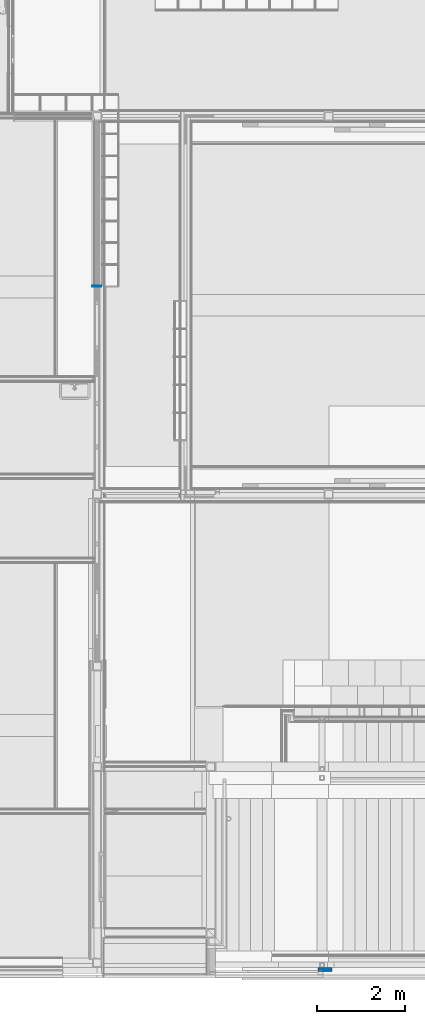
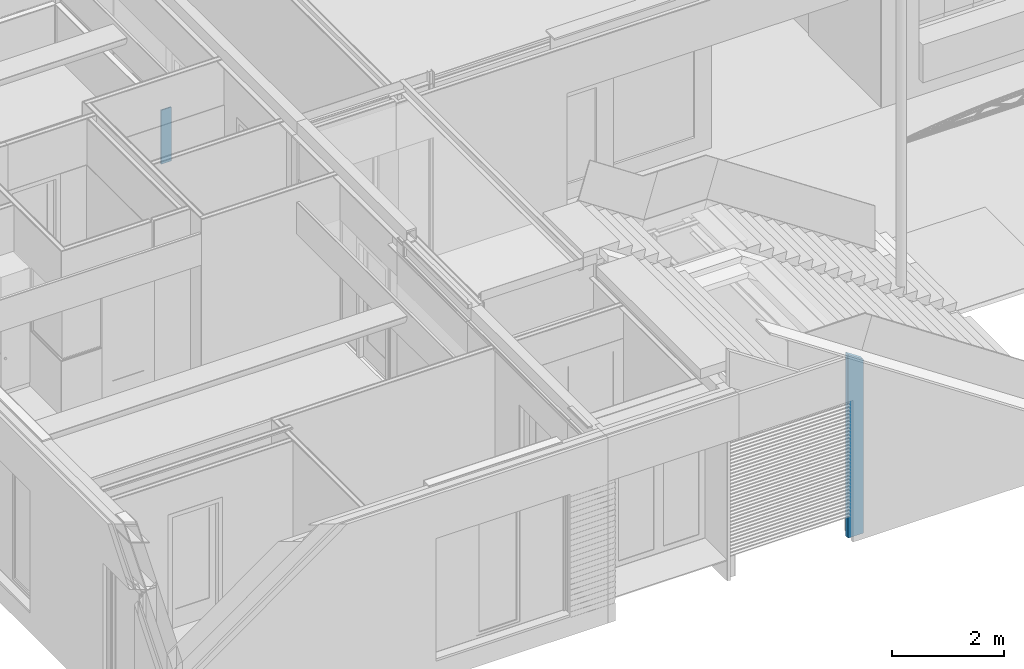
# One storey, part 23 of 165: 2 walls.
"""IFC2X3 building model written with IfcOpenShell, lengths in millimetres."""

from ifc_helpers import new_model, entity, si_unit, converted_unit, derived_unit, money_unit, direction, frame, origin_with_axes, place, context, subcontext, project, spatial, faceted_brep, material, type_object, element, save


model = new_model("IFC2X3")

# Units and contexts
model_context = context("Model", 3, precision=0.01, world=origin_with_axes(), true_north=direction((0.0, 1.0)))
body_context = subcontext(model_context, "Body", "Model", "MODEL_VIEW")
ifc_project = project(units=[si_unit("LENGTHUNIT", "METRE", prefix="MILLI"), si_unit("AREAUNIT", "SQUARE_METRE"), si_unit("VOLUMEUNIT", "CUBIC_METRE"), converted_unit("PLANEANGLEUNIT", "DEGREE", entity("IfcPlaneAngleMeasure", 0.0174532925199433), si_unit("PLANEANGLEUNIT", "RADIAN"), dimensions=[0, 0, 0, 0, 0, 0, 0]), money_unit("EUR"), converted_unit("TIMEUNIT", "Year", entity("IfcTimeMeasure", 31556926.0), si_unit("TIMEUNIT", "SECOND"), dimensions=[0, 0, 1, 0, 0, 0, 0]), si_unit("MASSUNIT", "GRAM", prefix="KILO"), si_unit("THERMODYNAMICTEMPERATUREUNIT", "DEGREE_CELSIUS"), si_unit("LUMINOUSINTENSITYUNIT", "LUMEN"), si_unit("ENERGYUNIT", "JOULE", prefix="MEGA"), derived_unit("THERMALCONDUCTANCEUNIT", [(si_unit("POWERUNIT", "WATT"), 1), (si_unit("LENGTHUNIT", "METRE"), -1), (si_unit("THERMODYNAMICTEMPERATUREUNIT", "KELVIN"), -1)]), derived_unit("SPECIFICHEATCAPACITYUNIT", [(si_unit("ENERGYUNIT", "JOULE"), 1), (si_unit("MASSUNIT", "GRAM", prefix="KILO"), -1), (si_unit("THERMODYNAMICTEMPERATUREUNIT", "KELVIN"), -1)]), derived_unit("MASSDENSITYUNIT", [(si_unit("MASSUNIT", "GRAM", prefix="KILO"), 1), (si_unit("VOLUMEUNIT", "CUBIC_METRE"), -1)])], contexts=[model_context])

# Site, building, storey
site_placement = place(None, origin_with_axes())
site = spatial("IfcSite", under=ifc_project, at=site_placement, Name="Site", CompositionType="ELEMENT")
building_placement = place(site_placement, origin_with_axes())
building = spatial("IfcBuilding", under=site, at=building_placement, Name="Naam gebouw", CompositionType="ELEMENT")
storey_placement = place(building_placement, origin_with_axes())
storey = spatial("IfcBuildingStorey", under=building, at=storey_placement, Name="Begane grond", CompositionType="ELEMENT", Elevation=0.0)

# Walls
ifc_material_1 = material(Name="Hout - Multiplex")
wall_type_1 = type_object("IfcWallType", Name="Hout - Multiplex 20", PredefinedType="NOTDEFINED")
wall_1_placement = place(storey_placement, frame((8949.999999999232, 15549.99540346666, 0.0), z_axis=(0.0, 0.0, 1.0), x_axis=(-0.9999999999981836, 1.906052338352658e-06, 0.0)))
element("IfcWall", 1, at=wall_1_placement, inside=storey, type_object=wall_type_1, material=ifc_material_1, Name="21_Wand-x", context=body_context, shape_type="Brep", body=[
    faceted_brep([(212.5036691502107, -20.00000000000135, 0.0), (212.4997045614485, -20.00000000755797, 1180.0), (3.812027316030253e-05, -19.99999999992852, 1180.0), (0.0, -20.00000000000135, 0.0), (212.5036691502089, 0.0, 0.0), (212.4996664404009, -7.629452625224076e-09, 1180.0), (0.0, -0.0004050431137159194, 1180.0), (0.0, 0.0, 0.0)], [[[0, 1, 2, 3]], [[4, 5, 1, 0]], [[5, 6, 2, 1]], [[3, 2, 6, 7]], [[3, 7, 4, 0]], [[7, 6, 5, 4]]]),
])
ifc_material_2 = material(Name="Steen - Kalkzandsteen")
wall_type_2 = type_object("IfcWallType", Name="Steen - Kalkzandsteen 100", PredefinedType="NOTDEFINED")
wall_2_placement = place(storey_placement, frame((14214.66250735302, 0.0002238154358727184, -485.0), z_axis=(0.0, 0.0, 1.0), x_axis=(-1.0, 0.0, 0.0)))
element("IfcWall", 2, at=wall_2_placement, inside=storey, type_object=wall_type_2, material=ifc_material_2, Name="21_Wand-x", context=body_context, shape_type="Brep", body=[
    faceted_brep([(314.6625073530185, 0.0, 4011.666648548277), (0.0, 0.0, 3801.891644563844), (0.0, 0.0, 0.0), (314.6625073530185, 0.0, 0.0), (0.0, 100.0000000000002, 3801.89164863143), (314.6625073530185, 100.0000000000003, 4011.666652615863), (0.0, 100.0, 0.0), (314.6625073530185, 100.0, 0.0)], [[[0, 1, 2, 3]], [[4, 1, 0, 5]], [[1, 4, 6, 2]], [[2, 6, 7, 3]], [[5, 0, 3, 7]], [[4, 5, 7, 6]]]),
])

save(model, "model.ifc")
